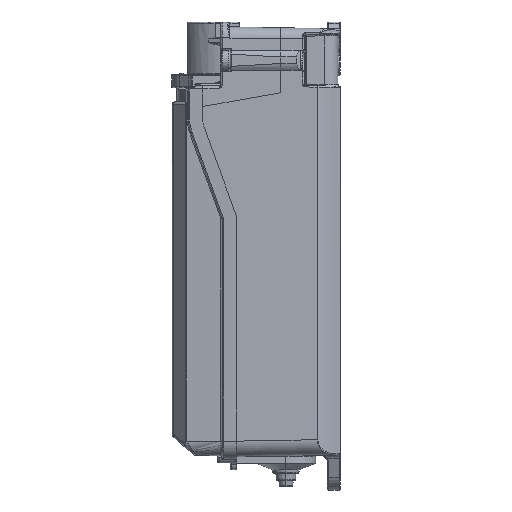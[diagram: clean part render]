
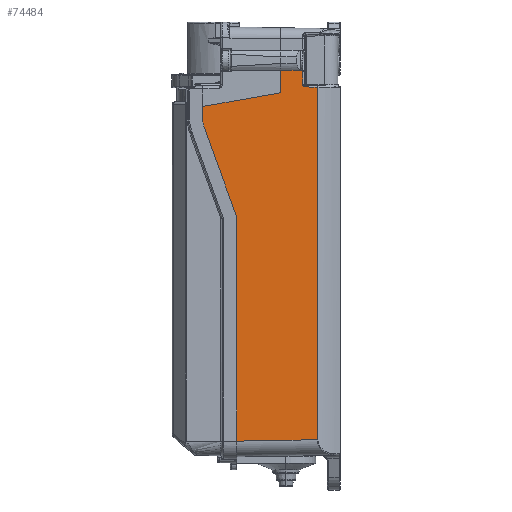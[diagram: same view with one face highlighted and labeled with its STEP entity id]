
A CAD part, left-side view. The second image highlights one B-rep face of the part: STEP entity #74484.
In plain terms, the highlighted planar face has unit normal (-1, -0.018, 0).
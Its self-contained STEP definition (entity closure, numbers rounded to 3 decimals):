
#229 = EDGE_CURVE ( 'NONE', #70125, #10756, #38002, .T. ) ;
#585 = CARTESIAN_POINT ( 'NONE',  ( -39.572, 15.5, 148.567 ) ) ;
#1681 = CARTESIAN_POINT ( 'NONE',  ( -39.538, 13.509, 142.236 ) ) ;
#2225 = CARTESIAN_POINT ( 'NONE',  ( -39.458, 8.954, 0. ) ) ;
#2936 = LINE ( 'NONE', #57566, #80270 ) ;
#3140 = EDGE_CURVE ( 'NONE', #82872, #79934, #30209, .T. ) ;
#3403 = CARTESIAN_POINT ( 'NONE',  ( -40.409, 63.422, 132.873 ) ) ;
#3905 = VECTOR ( 'NONE', #45866, 1000. ) ;
#4153 =( BOUNDED_CURVE ( )  B_SPLINE_CURVE ( 3, ( #20962, #60279, #8187, #14349 ),
 .UNSPECIFIED., .F., .F. ) 
 B_SPLINE_CURVE_WITH_KNOTS ( ( 4, 4 ),
 ( 4.695, 4.712 ),
 .UNSPECIFIED. ) 
 CURVE ( )  GEOMETRIC_REPRESENTATION_ITEM ( )  RATIONAL_B_SPLINE_CURVE ( ( 1., 1., 1., 1. ) ) 
 REPRESENTATION_ITEM ( '' )  );
#4316 = DIRECTION ( 'NONE',  ( -1., -0.017, 0. ) ) ;
#8187 = CARTESIAN_POINT ( 'NONE',  ( -39.555, 14.497, 148.567 ) ) ;
#8653 = ORIENTED_EDGE ( 'NONE', *, *, #65304, .T. ) ;
#8659 = CARTESIAN_POINT ( 'NONE',  ( -39.458, 8.954, 6.541 ) ) ;
#8826 = VECTOR ( 'NONE', #37283, 1000. ) ;
#10756 = VERTEX_POINT ( 'NONE', #21125 ) ;
#11642 =( BOUNDED_CURVE ( )  B_SPLINE_CURVE ( 3, ( #47571, #86845, #26364, #54596 ),
 .UNSPECIFIED., .F., .F. ) 
 B_SPLINE_CURVE_WITH_KNOTS ( ( 4, 4 ),
 ( 3.142, 3.491 ),
 .UNSPECIFIED. ) 
 CURVE ( )  GEOMETRIC_REPRESENTATION_ITEM ( )  RATIONAL_B_SPLINE_CURVE ( ( 1., 0.99, 0.99, 1. ) ) 
 REPRESENTATION_ITEM ( '' )  );
#13558 = ORIENTED_EDGE ( 'NONE', *, *, #52429, .T. ) ;
#14349 = CARTESIAN_POINT ( 'NONE',  ( -39.555, 14.5, 148.567 ) ) ;
#14718 =( BOUNDED_CURVE ( )  B_SPLINE_CURVE ( 3, ( #35658, #68819, #75838, #1681 ),
 .UNSPECIFIED., .F., .F. ) 
 B_SPLINE_CURVE_WITH_KNOTS ( ( 4, 4 ),
 ( 0., 1.553 ),
 .UNSPECIFIED. ) 
 CURVE ( )  GEOMETRIC_REPRESENTATION_ITEM ( )  RATIONAL_B_SPLINE_CURVE ( ( 1., 0.809, 0.809, 1. ) ) 
 REPRESENTATION_ITEM ( '' )  );
#15988 = CARTESIAN_POINT ( 'NONE',  ( -39.617, 18.046, 148.641 ) ) ;
#17050 = LINE ( 'NONE', #3403, #27829 ) ;
#17076 = VERTEX_POINT ( 'NONE', #25246 ) ;
#17213 = CARTESIAN_POINT ( 'NONE',  ( -40.227, 53., 134.71 ) ) ;
#17412 = EDGE_CURVE ( 'NONE', #56763, #20474, #14718, .T. ) ;
#18525 = EDGE_CURVE ( 'NONE', #25685, #82055, #2936, .T. ) ;
#18555 = ORIENTED_EDGE ( 'NONE', *, *, #73049, .F. ) ;
#18809 =( BOUNDED_CURVE ( )  B_SPLINE_CURVE ( 3, ( #76466, #15988, #32697, #38455 ),
 .UNSPECIFIED., .F., .F. ) 
 B_SPLINE_CURVE_WITH_KNOTS ( ( 4, 4 ),
 ( 5.519, 5.553 ),
 .UNSPECIFIED. ) 
 CURVE ( )  GEOMETRIC_REPRESENTATION_ITEM ( )  RATIONAL_B_SPLINE_CURVE ( ( 1., 1., 1., 1. ) ) 
 REPRESENTATION_ITEM ( '' )  );
#20474 = VERTEX_POINT ( 'NONE', #36700 ) ;
#20829 = ORIENTED_EDGE ( 'NONE', *, *, #53461, .T. ) ;
#20962 = CARTESIAN_POINT ( 'NONE',  ( -39.555, 14.491, 148.567 ) ) ;
#21125 = CARTESIAN_POINT ( 'NONE',  ( -39.703, 23., 148.736 ) ) ;
#22075 = DIRECTION ( 'NONE',  ( 0., 0., 1. ) ) ;
#23076 = EDGE_CURVE ( 'NONE', #56763, #17076, #48145, .T. ) ;
#24251 = ORIENTED_EDGE ( 'NONE', *, *, #17412, .F. ) ;
#24590 = DIRECTION ( 'NONE',  ( 0.017, -1., 0. ) ) ;
#24617 = ORIENTED_EDGE ( 'NONE', *, *, #57747, .T. ) ;
#25176 = CARTESIAN_POINT ( 'NONE',  ( -39.703, 23., 0. ) ) ;
#25246 = CARTESIAN_POINT ( 'NONE',  ( -39.555, 14.491, 148.567 ) ) ;
#25685 = VERTEX_POINT ( 'NONE', #17213 ) ;
#26166 = CARTESIAN_POINT ( 'NONE',  ( -39.458, 8.954, 142.156 ) ) ;
#26364 = CARTESIAN_POINT ( 'NONE',  ( -40.223, 52.797, 127.679 ) ) ;
#27337 = CARTESIAN_POINT ( 'NONE',  ( -39.555, 14.491, 143.236 ) ) ;
#27829 = VECTOR ( 'NONE', #51970, 1000. ) ;
#29600 = VERTEX_POINT ( 'NONE', #50064 ) ;
#30034 = VECTOR ( 'NONE', #22075, 1000. ) ;
#30138 = CARTESIAN_POINT ( 'NONE',  ( -40., 40., 148.567 ) ) ;
#30209 = LINE ( 'NONE', #56665, #8826 ) ;
#30488 = EDGE_CURVE ( 'NONE', #34536, #36381, #37556, .T. ) ;
#30775 = PLANE ( 'NONE',  #74286 ) ;
#30973 = LINE ( 'NONE', #44248, #69761 ) ;
#31368 = DIRECTION ( 'NONE',  ( 0., 0., 1. ) ) ;
#32170 = ORIENTED_EDGE ( 'NONE', *, *, #3140, .T. ) ;
#32600 = CARTESIAN_POINT ( 'NONE',  ( -39.572, 15.5, 0. ) ) ;
#32697 = CARTESIAN_POINT ( 'NONE',  ( -39.66, 20.546, 148.688 ) ) ;
#34536 = VERTEX_POINT ( 'NONE', #69650 ) ;
#35189 = VECTOR ( 'NONE', #31368, 1000. ) ;
#35658 = CARTESIAN_POINT ( 'NONE',  ( -39.555, 14.491, 143.236 ) ) ;
#35754 = LINE ( 'NONE', #2225, #30034 ) ;
#36177 = CARTESIAN_POINT ( 'NONE',  ( -39.703, 23., 140. ) ) ;
#36381 = VERTEX_POINT ( 'NONE', #8659 ) ;
#36700 = CARTESIAN_POINT ( 'NONE',  ( -39.538, 13.509, 142.236 ) ) ;
#36783 = LINE ( 'NONE', #30138, #71509 ) ;
#36823 = ORIENTED_EDGE ( 'NONE', *, *, #23076, .T. ) ;
#37283 = DIRECTION ( 'NONE',  ( 0.006, -0.342, -0.94 ) ) ;
#37556 = LINE ( 'NONE', #49104, #49268 ) ;
#38002 = LINE ( 'NONE', #25176, #35189 ) ;
#38455 = CARTESIAN_POINT ( 'NONE',  ( -39.703, 23., 148.736 ) ) ;
#41089 = DIRECTION ( 'NONE',  ( 0., 0., 1. ) ) ;
#41619 = VERTEX_POINT ( 'NONE', #585 ) ;
#43720 = VECTOR ( 'NONE', #47033, 1000. ) ;
#44248 = CARTESIAN_POINT ( 'NONE',  ( -40., 40., 0. ) ) ;
#44668 = EDGE_CURVE ( 'NONE', #17076, #72129, #4153, .T. ) ;
#44800 = ORIENTED_EDGE ( 'NONE', *, *, #229, .F. ) ;
#44930 = CARTESIAN_POINT ( 'NONE',  ( -40., 40., 0. ) ) ;
#45573 = ORIENTED_EDGE ( 'NONE', *, *, #18525, .T. ) ;
#45587 = DIRECTION ( 'NONE',  ( -0.017, 1., 0. ) ) ;
#45866 = DIRECTION ( 'NONE',  ( 0., 0., 1. ) ) ;
#47033 = DIRECTION ( 'NONE',  ( -0.017, 1., 0.017 ) ) ;
#47288 = VERTEX_POINT ( 'NONE', #26166 ) ;
#47571 = CARTESIAN_POINT ( 'NONE',  ( -40.227, 53., 130. ) ) ;
#47942 = CARTESIAN_POINT ( 'NONE',  ( -40., 40., 92.52 ) ) ;
#48145 = LINE ( 'NONE', #53042, #58363 ) ;
#49104 = CARTESIAN_POINT ( 'NONE',  ( -40.002, 40.105, 5.997 ) ) ;
#49268 = VECTOR ( 'NONE', #63626, 1000. ) ;
#49622 = EDGE_CURVE ( 'NONE', #29600, #10756, #18809, .T. ) ;
#50064 = CARTESIAN_POINT ( 'NONE',  ( -39.572, 15.5, 148.595 ) ) ;
#51847 = CARTESIAN_POINT ( 'NONE',  ( -39.555, 14.5, 148.567 ) ) ;
#51970 = DIRECTION ( 'NONE',  ( -0.017, 0.985, -0.174 ) ) ;
#52429 = EDGE_CURVE ( 'NONE', #41619, #29600, #79395, .T. ) ;
#53042 = CARTESIAN_POINT ( 'NONE',  ( -39.555, 14.491, 0. ) ) ;
#53461 = EDGE_CURVE ( 'NONE', #70125, #25685, #17050, .T. ) ;
#54596 = CARTESIAN_POINT ( 'NONE',  ( -40.216, 52.397, 126.58 ) ) ;
#56665 = CARTESIAN_POINT ( 'NONE',  ( -39.481, 10.266, 10.826 ) ) ;
#56763 = VERTEX_POINT ( 'NONE', #27337 ) ;
#57566 = CARTESIAN_POINT ( 'NONE',  ( -40.227, 53., 0. ) ) ;
#57625 = ORIENTED_EDGE ( 'NONE', *, *, #49622, .T. ) ;
#57747 = EDGE_CURVE ( 'NONE', #82055, #82872, #11642, .T. ) ;
#58363 = VECTOR ( 'NONE', #41089, 1000. ) ;
#60279 = CARTESIAN_POINT ( 'NONE',  ( -39.555, 14.494, 148.567 ) ) ;
#63626 = DIRECTION ( 'NONE',  ( 0.017, -1., 0.017 ) ) ;
#63955 = ORIENTED_EDGE ( 'NONE', *, *, #74946, .T. ) ;
#64810 = EDGE_LOOP ( 'NONE', ( #36823, #80281, #63955, #13558, #57625, #44800, #20829, #45573, #24617, #32170, #18555, #77349, #85898, #8653, #24251 ) ) ;
#65304 = EDGE_CURVE ( 'NONE', #47288, #20474, #81431, .T. ) ;
#68819 = CARTESIAN_POINT ( 'NONE',  ( -39.555, 14.491, 142.658 ) ) ;
#69650 = CARTESIAN_POINT ( 'NONE',  ( -40., 40., 5.999 ) ) ;
#69761 = VECTOR ( 'NONE', #72448, 1000. ) ;
#70125 = VERTEX_POINT ( 'NONE', #36177 ) ;
#71509 = VECTOR ( 'NONE', #45587, 1000. ) ;
#72129 = VERTEX_POINT ( 'NONE', #51847 ) ;
#72448 = DIRECTION ( 'NONE',  ( 0., 0., 1. ) ) ;
#73049 = EDGE_CURVE ( 'NONE', #34536, #79934, #30973, .T. ) ;
#74286 = AXIS2_PLACEMENT_3D ( 'NONE', #44930, #4316, #24590 ) ;
#74373 = CARTESIAN_POINT ( 'NONE',  ( -39.546, 14.009, 142.245 ) ) ;
#74484 = ADVANCED_FACE ( 'NONE', ( #84666 ), #30775, .T. ) ;
#74946 = EDGE_CURVE ( 'NONE', #72129, #41619, #36783, .T. ) ;
#75838 = CARTESIAN_POINT ( 'NONE',  ( -39.548, 14.086, 142.246 ) ) ;
#76466 = CARTESIAN_POINT ( 'NONE',  ( -39.572, 15.5, 148.595 ) ) ;
#77349 = ORIENTED_EDGE ( 'NONE', *, *, #30488, .T. ) ;
#78357 = DIRECTION ( 'NONE',  ( 0., 0., -1. ) ) ;
#79395 = LINE ( 'NONE', #32600, #3905 ) ;
#79934 = VERTEX_POINT ( 'NONE', #47942 ) ;
#80231 = CARTESIAN_POINT ( 'NONE',  ( -40.216, 52.397, 126.58 ) ) ;
#80270 = VECTOR ( 'NONE', #78357, 1000. ) ;
#80281 = ORIENTED_EDGE ( 'NONE', *, *, #44668, .T. ) ;
#81431 = LINE ( 'NONE', #74373, #43720 ) ;
#82055 = VERTEX_POINT ( 'NONE', #85061 ) ;
#82872 = VERTEX_POINT ( 'NONE', #80231 ) ;
#84666 = FACE_OUTER_BOUND ( 'NONE', #64810, .T. ) ;
#84731 = EDGE_CURVE ( 'NONE', #36381, #47288, #35754, .T. ) ;
#85061 = CARTESIAN_POINT ( 'NONE',  ( -40.227, 53., 130. ) ) ;
#85898 = ORIENTED_EDGE ( 'NONE', *, *, #84731, .T. ) ;
#86845 = CARTESIAN_POINT ( 'NONE',  ( -40.227, 53., 128.831 ) ) ;
